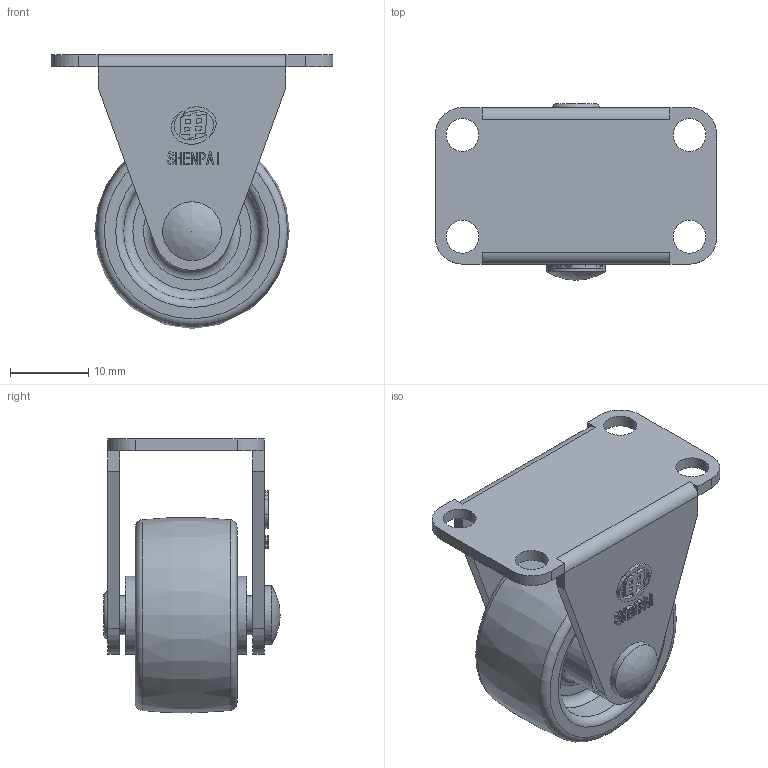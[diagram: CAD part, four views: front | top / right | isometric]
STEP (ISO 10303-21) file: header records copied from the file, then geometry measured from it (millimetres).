
FILE_DESCRIPTION(/* description */ (''),/* implementation_level */ '2;1');
FILE_NAME(/* name */ '10A02_1_F.stp',/* time_stamp */ '2022-10-06T13:41:34+08:00',/* author */ (''),/* organization */ (''),/* preprocessor_version */ 'ST-DEVELOPER v14',/* originating_system */ 'SIEMENS PLM Software NX 8.0',/* authorisation */ '');
FILE_SCHEMA (('AUTOMOTIVE_DESIGN { 1 0 10303 214 3 1 1 1 }'));
Length unit declared in the file: millimetre
Products named in the file (1): 10A02_1_F
Bounding box: 36 x 22.5 x 35 mm (x, y, z)
Volume: 7126.9 mm3; surface area: 6140.7 mm2
Topology: 1 solids, 1 shells, 248 faces, 651 edges, 430 vertices
Faces by surface type: plane 184, cylinder 49, torus 9, bspline 6
Full cylindrical faces by diameter (mm): 4 x1, 4.2 x4, 5 x2, 5.2 x2, 7.5 x1, 10 x2, 17.5 x2
Entity records: 7692 total; most frequent: CARTESIAN_POINT 2038, ORIENTED_EDGE 1234, DIRECTION 988, EDGE_CURVE 617, VERTEX_POINT 422, AXIS2_PLACEMENT_3D 352, EDGE_LOOP 308, LINE 284
